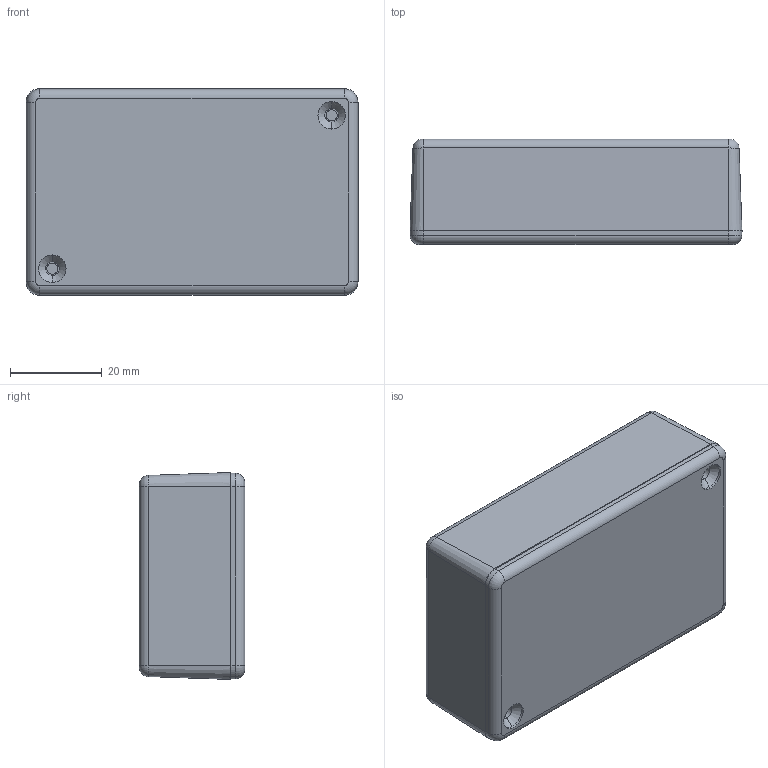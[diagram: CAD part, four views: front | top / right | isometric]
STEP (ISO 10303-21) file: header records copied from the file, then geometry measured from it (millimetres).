
FILE_DESCRIPTION (( 'STEP AP203' ), '1' );
FILE_NAME ('HH-014-0-0.STEP', '2025-05-06T07:06:07', ( '' ), ( '' ), 'SwSTEP 2.0', 'SolidWorks 2021', '' );
FILE_SCHEMA (( 'CONFIG_CONTROL_DESIGN' ));
Length unit declared in the file: millimetre
Products named in the file (5): pcb_sample_top; HH-014-0-0; DM-014-P-1; HH-013-P-1; pcb_sample_base
Assembly tree (4 placements, depth 2):
  HH-014-0-0
    HH-013-P-1
    DM-014-P-1
    pcb_sample_base
    pcb_sample_top
Bounding box: 72.5 x 23 x 45.2 mm (x, y, z)
Volume: 31473.4 mm3; surface area: 34730.2 mm2
Topology: 4 solids, 4 shells, 172 faces, 411 edges, 266 vertices
Faces by surface type: plane 83, cylinder 61, cone 20, torus 8
Entity records: 5552 total; most frequent: DIRECTION 931, CARTESIAN_POINT 856, ORIENTED_EDGE 822, EDGE_CURVE 411, AXIS2_PLACEMENT_3D 341, VERTEX_POINT 266, LINE 249, VECTOR 249
